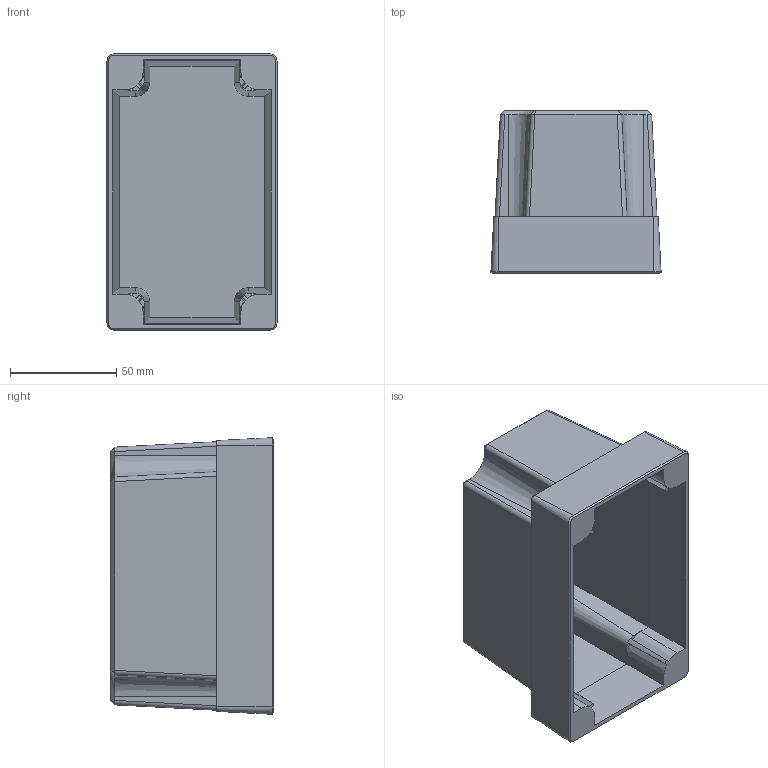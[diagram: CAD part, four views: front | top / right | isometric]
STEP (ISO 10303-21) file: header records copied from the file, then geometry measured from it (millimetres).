
FILE_DESCRIPTION (( 'STEP AP203' ), '1' );
FILE_NAME ('FIBOX_MNX10075C.STEP', '2005-06-30T06:53:06', ( ' ' ), ( ' ' ), 'SwSTEP 2.0', 'SolidWorks 2005143', '' );
FILE_SCHEMA (( 'CONFIG_CONTROL_DESIGN' ));
Length unit declared in the file: millimetre
Products named in the file (1): FIBOX_MNX10075C
Bounding box: 79.93 x 76.6 x 129.93 mm (x, y, z)
Volume: 86631 mm3; surface area: 76932.7 mm2
Topology: 1 solids, 1 shells, 127 faces, 337 edges, 219 vertices
Faces by surface type: plane 77, cone 28, cylinder 20, bspline 2
Entity records: 6356 total; most frequent: CARTESIAN_POINT 3192, ORIENTED_EDGE 674, DIRECTION 604, EDGE_CURVE 337, VERTEX_POINT 219, AXIS2_PLACEMENT_3D 206, VECTOR 192, LINE 192
